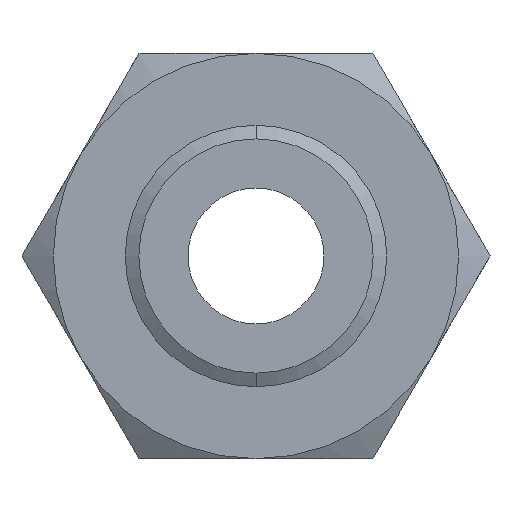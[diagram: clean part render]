
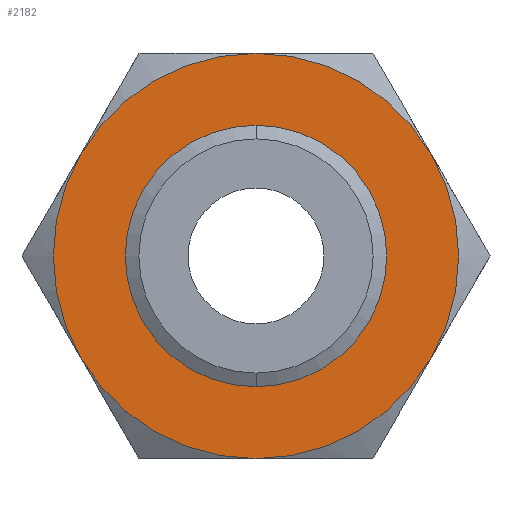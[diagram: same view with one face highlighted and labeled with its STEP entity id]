
A CAD part, front view. The second image highlights one B-rep face of the part: STEP entity #2182.
In plain terms, the highlighted planar face has unit normal (0, -1, 0).
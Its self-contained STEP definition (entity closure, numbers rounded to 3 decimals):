
#9 = VERTEX_POINT ( 'NONE', #222 ) ;
#36 = VERTEX_POINT ( 'NONE', #236 ) ;
#43 = EDGE_CURVE ( 'NONE', #9, #36, #237, .T. ) ;
#222 = CARTESIAN_POINT ( 'NONE',  ( 0., 0., -44.804 ) ) ;
#236 = CARTESIAN_POINT ( 'NONE',  ( 0., 0., 44.804 ) ) ;
#237 = CIRCLE ( 'NONE', #296, 44.804 ) ;
#293 = DIRECTION ( 'NONE',  ( 0., 0., -1. ) ) ;
#294 = DIRECTION ( 'NONE',  ( 0., -1., 0. ) ) ;
#295 = CARTESIAN_POINT ( 'NONE',  ( 0., 0., 0. ) ) ;
#296 = AXIS2_PLACEMENT_3D ( 'NONE', #295, #294, #293 ) ;
#1132 = CARTESIAN_POINT ( 'NONE',  ( 67.117, 0., -38.75 ) ) ;
#1137 = DIRECTION ( 'NONE',  ( 0., 0., 1. ) ) ;
#1138 = DIRECTION ( 'NONE',  ( 0., 1., 0. ) ) ;
#1139 = CARTESIAN_POINT ( 'NONE',  ( 0., 0., 0. ) ) ;
#1140 = AXIS2_PLACEMENT_3D ( 'NONE', #1139, #1138, #1137 ) ;
#1141 = CIRCLE ( 'NONE', #1140, 77.5 ) ;
#1142 = DIRECTION ( 'NONE',  ( 0., 0., 1. ) ) ;
#1143 = DIRECTION ( 'NONE',  ( 0., 1., 0. ) ) ;
#1144 = CARTESIAN_POINT ( 'NONE',  ( 0., 0., 0. ) ) ;
#1145 = AXIS2_PLACEMENT_3D ( 'NONE', #1144, #1143, #1142 ) ;
#1146 = CIRCLE ( 'NONE', #1145, 77.5 ) ;
#1147 = CARTESIAN_POINT ( 'NONE',  ( 0., 0., -77.5 ) ) ;
#1179 = DIRECTION ( 'NONE',  ( 0., 0., 1. ) ) ;
#1180 = DIRECTION ( 'NONE',  ( 0., 1., 0. ) ) ;
#1181 = CARTESIAN_POINT ( 'NONE',  ( 0., 0., 0. ) ) ;
#1182 = AXIS2_PLACEMENT_3D ( 'NONE', #1181, #1180, #1179 ) ;
#1183 = CIRCLE ( 'NONE', #1182, 77.5 ) ;
#1185 = CIRCLE ( 'NONE', #1247, 77.5 ) ;
#1215 = DIRECTION ( 'NONE',  ( 0., 1., 0. ) ) ;
#1216 = CARTESIAN_POINT ( 'NONE',  ( 44.745, 0., -77.5 ) ) ;
#1217 = AXIS2_PLACEMENT_3D ( 'NONE', #1216, #1215, #1279 ) ;
#1218 = PLANE ( 'NONE',  #1217 ) ;
#1219 = FACE_BOUND ( 'NONE', #2184, .T. ) ;
#1220 = FACE_OUTER_BOUND ( 'NONE', #2112, .T. ) ;
#1231 = CARTESIAN_POINT ( 'NONE',  ( -67.117, 0., -38.75 ) ) ;
#1236 = CARTESIAN_POINT ( 'NONE',  ( -67.117, 0., 38.75 ) ) ;
#1237 = CARTESIAN_POINT ( 'NONE',  ( 0., 0., 77.5 ) ) ;
#1238 = DIRECTION ( 'NONE',  ( 0., 0., 1. ) ) ;
#1239 = DIRECTION ( 'NONE',  ( 0., 1., 0. ) ) ;
#1240 = CARTESIAN_POINT ( 'NONE',  ( 0., 0., 0. ) ) ;
#1241 = AXIS2_PLACEMENT_3D ( 'NONE', #1240, #1239, #1238 ) ;
#1242 = CIRCLE ( 'NONE', #1241, 77.5 ) ;
#1243 = CARTESIAN_POINT ( 'NONE',  ( 67.117, 0., 38.75 ) ) ;
#1244 = DIRECTION ( 'NONE',  ( 0., 0., 1. ) ) ;
#1245 = DIRECTION ( 'NONE',  ( 0., 1., 0. ) ) ;
#1246 = CARTESIAN_POINT ( 'NONE',  ( 0., 0., 0. ) ) ;
#1247 = AXIS2_PLACEMENT_3D ( 'NONE', #1246, #1245, #1244 ) ;
#1279 = DIRECTION ( 'NONE',  ( 0., 0., 1. ) ) ;
#1574 = DIRECTION ( 'NONE',  ( 0., 0., -1. ) ) ;
#1575 = DIRECTION ( 'NONE',  ( 0., -1., 0. ) ) ;
#1576 = AXIS2_PLACEMENT_3D ( 'NONE', #1581, #1575, #1574 ) ;
#1577 = CIRCLE ( 'NONE', #1576, 44.804 ) ;
#1581 = CARTESIAN_POINT ( 'NONE',  ( 0., 0., 0. ) ) ;
#1595 = DIRECTION ( 'NONE',  ( 0., 0., 1. ) ) ;
#1596 = DIRECTION ( 'NONE',  ( 0., 1., 0. ) ) ;
#1597 = CARTESIAN_POINT ( 'NONE',  ( 0., 0., 0. ) ) ;
#1598 = AXIS2_PLACEMENT_3D ( 'NONE', #1597, #1596, #1595 ) ;
#1599 = CIRCLE ( 'NONE', #1598, 77.5 ) ;
#2112 = EDGE_LOOP ( 'NONE', ( #2169, #2172, #2168, #2129, #2133, #2405 ) ) ;
#2128 = EDGE_CURVE ( 'NONE', #2130, #2175, #1146, .T. ) ;
#2129 = ORIENTED_EDGE ( 'NONE', *, *, #2128, .F. ) ;
#2130 = VERTEX_POINT ( 'NONE', #1147 ) ;
#2131 = EDGE_CURVE ( 'NONE', #2134, #2130, #1141, .T. ) ;
#2133 = ORIENTED_EDGE ( 'NONE', *, *, #2131, .F. ) ;
#2134 = VERTEX_POINT ( 'NONE', #1132 ) ;
#2139 = EDGE_CURVE ( 'NONE', #2175, #2173, #1183, .T. ) ;
#2166 = EDGE_CURVE ( 'NONE', #2171, #2167, #1185, .T. ) ;
#2167 = VERTEX_POINT ( 'NONE', #1243 ) ;
#2168 = ORIENTED_EDGE ( 'NONE', *, *, #2139, .F. ) ;
#2169 = ORIENTED_EDGE ( 'NONE', *, *, #2166, .F. ) ;
#2170 = EDGE_CURVE ( 'NONE', #2173, #2171, #1242, .T. ) ;
#2171 = VERTEX_POINT ( 'NONE', #1237 ) ;
#2172 = ORIENTED_EDGE ( 'NONE', *, *, #2170, .F. ) ;
#2173 = VERTEX_POINT ( 'NONE', #1236 ) ;
#2175 = VERTEX_POINT ( 'NONE', #1231 ) ;
#2182 = ADVANCED_FACE ( 'NONE', ( #1220, #1219 ), #1218, .F. ) ;
#2184 = EDGE_LOOP ( 'NONE', ( #2185, #2186 ) ) ;
#2185 = ORIENTED_EDGE ( 'NONE', *, *, #43, .F. ) ;
#2186 = ORIENTED_EDGE ( 'NONE', *, *, #2392, .F. ) ;
#2392 = EDGE_CURVE ( 'NONE', #36, #9, #1577, .T. ) ;
#2405 = ORIENTED_EDGE ( 'NONE', *, *, #2406, .F. ) ;
#2406 = EDGE_CURVE ( 'NONE', #2167, #2134, #1599, .T. ) ;
